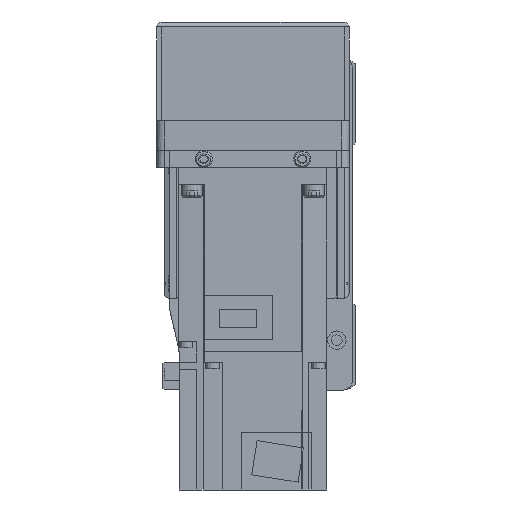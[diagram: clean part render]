
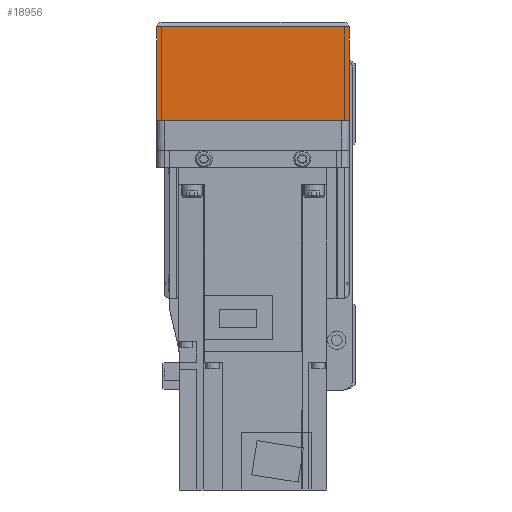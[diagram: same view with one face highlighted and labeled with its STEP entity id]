
A CAD part, left-side view. The second image highlights one B-rep face of the part: STEP entity #18956.
In plain terms, the highlighted planar face has unit normal (-1, 0, 0).
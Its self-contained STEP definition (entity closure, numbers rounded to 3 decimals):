
#2828=ORIENTED_EDGE('',*,*,#7611,.F.);
#2829=ORIENTED_EDGE('',*,*,#7612,.F.);
#2830=ORIENTED_EDGE('',*,*,#7613,.T.);
#2831=ORIENTED_EDGE('',*,*,#7614,.F.);
#7611=EDGE_CURVE('',#10101,#10092,#12058,.T.);
#7612=EDGE_CURVE('',#10118,#10101,#12059,.T.);
#7613=EDGE_CURVE('',#10118,#10119,#12060,.T.);
#7614=EDGE_CURVE('',#10092,#10119,#12061,.T.);
#10092=VERTEX_POINT('',#29082);
#10101=VERTEX_POINT('',#29100);
#10118=VERTEX_POINT('',#29148);
#10119=VERTEX_POINT('',#29150);
#12058=LINE('',#29146,#13721);
#12059=LINE('',#29147,#13722);
#12060=LINE('',#29149,#13723);
#12061=LINE('',#29151,#13724);
#13721=VECTOR('',#23332,1000.);
#13722=VECTOR('',#23333,1000.);
#13723=VECTOR('',#23334,1000.);
#13724=VECTOR('',#23335,1000.);
#15216=EDGE_LOOP('',(#2828,#2829,#2830,#2831));
#16781=FACE_BOUND('',#15216,.T.);
#18187=PLANE('',#20318);
#18956=ADVANCED_FACE('',(#16781),#18187,.F.);
#20318=AXIS2_PLACEMENT_3D('',#29145,#23330,#23331);
#23330=DIRECTION('',(1.,0.,0.));
#23331=DIRECTION('',(0.,0.,-1.));
#23332=DIRECTION('',(0.,-1.,0.));
#23333=DIRECTION('',(0.,0.,1.));
#23334=DIRECTION('',(0.,-1.,0.));
#23335=DIRECTION('',(0.,0.,-1.));
#29082=CARTESIAN_POINT('',(-158.,-39.,-12.1));
#29100=CARTESIAN_POINT('',(-158.,39.,-12.1));
#29145=CARTESIAN_POINT('',(-158.,36.,7.));
#29146=CARTESIAN_POINT('',(-158.,50.,-12.1));
#29147=CARTESIAN_POINT('',(-158.,39.,-50.));
#29148=CARTESIAN_POINT('',(-158.,39.,-50.));
#29149=CARTESIAN_POINT('',(-158.,40.,-50.));
#29150=CARTESIAN_POINT('',(-158.,-39.,-50.));
#29151=CARTESIAN_POINT('',(-158.,-39.,-12.1));
